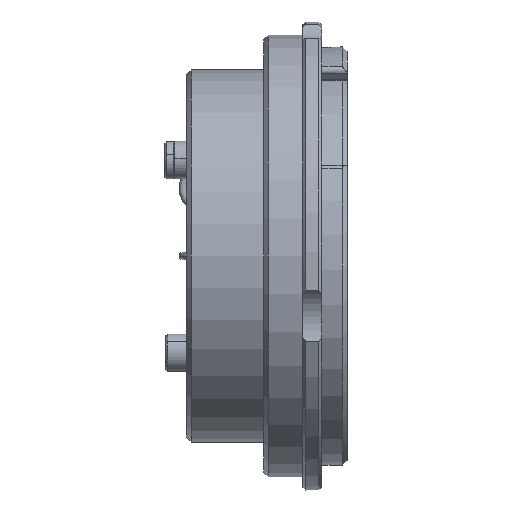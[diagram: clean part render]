
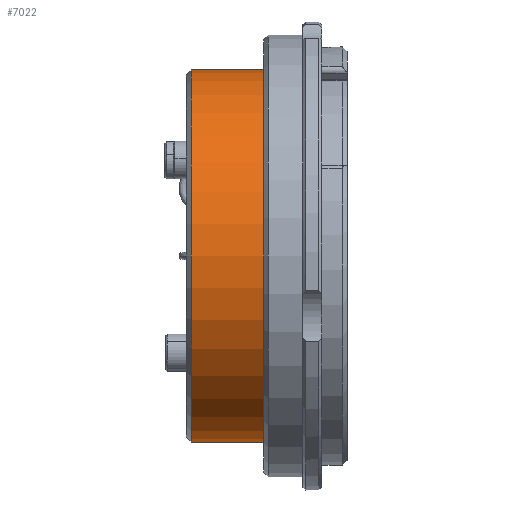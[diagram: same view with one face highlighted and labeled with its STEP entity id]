
A CAD part, left-side view. The second image highlights one B-rep face of the part: STEP entity #7022.
In plain terms, the highlighted cylindrical face has radius 19.8 mm (diameter 39.6 mm), a partial arc.
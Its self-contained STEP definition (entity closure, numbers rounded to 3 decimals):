
#450 = EDGE_CURVE ( 'NONE', #8816, #9384, #9280, .T. ) ;
#524 = VERTEX_POINT ( 'NONE', #2360 ) ;
#680 = CARTESIAN_POINT ( 'NONE',  ( 0., -8.2, -19.8 ) ) ;
#818 = LINE ( 'NONE', #680, #11802 ) ;
#1045 = EDGE_CURVE ( 'NONE', #524, #13012, #7963, .T. ) ;
#1578 = EDGE_CURVE ( 'NONE', #13012, #8816, #3965, .T. ) ;
#2360 = CARTESIAN_POINT ( 'NONE',  ( 0., -8.2, -19.8 ) ) ;
#2889 = DIRECTION ( 'NONE',  ( 0., 1., 0. ) ) ;
#2913 = DIRECTION ( 'NONE',  ( 0., -1., 0. ) ) ;
#3000 = CARTESIAN_POINT ( 'NONE',  ( 0., -8.2, 19.8 ) ) ;
#3514 = DIRECTION ( 'NONE',  ( 0., 0., 1. ) ) ;
#3892 = CARTESIAN_POINT ( 'NONE',  ( 0., -8.2, 19.8 ) ) ;
#3965 = LINE ( 'NONE', #3000, #5579 ) ;
#4086 = CARTESIAN_POINT ( 'NONE',  ( 0., -0.5, 0. ) ) ;
#4515 = ORIENTED_EDGE ( 'NONE', *, *, #1045, .T. ) ;
#4938 = CYLINDRICAL_SURFACE ( 'NONE', #11290, 19.8 ) ;
#5476 = EDGE_CURVE ( 'NONE', #524, #9384, #818, .T. ) ;
#5506 = ORIENTED_EDGE ( 'NONE', *, *, #5476, .F. ) ;
#5579 = VECTOR ( 'NONE', #8504, 1000. ) ;
#5711 = DIRECTION ( 'NONE',  ( 0., 1., 0. ) ) ;
#5759 = CARTESIAN_POINT ( 'NONE',  ( 0., -8.2, 0. ) ) ;
#5887 = CARTESIAN_POINT ( 'NONE',  ( 0., -0.5, -19.8 ) ) ;
#6776 = FACE_OUTER_BOUND ( 'NONE', #8019, .T. ) ;
#7022 = ADVANCED_FACE ( 'NONE', ( #6776 ), #4938, .T. ) ;
#7082 = AXIS2_PLACEMENT_3D ( 'NONE', #12936, #5711, #3514 ) ;
#7335 = CARTESIAN_POINT ( 'NONE',  ( 0., -0.5, 19.8 ) ) ;
#7963 = CIRCLE ( 'NONE', #7082, 19.8 ) ;
#8019 = EDGE_LOOP ( 'NONE', ( #5506, #4515, #12135, #12082 ) ) ;
#8274 = DIRECTION ( 'NONE',  ( 0., 0., 1. ) ) ;
#8504 = DIRECTION ( 'NONE',  ( 0., 1., 0. ) ) ;
#8816 = VERTEX_POINT ( 'NONE', #7335 ) ;
#9059 = DIRECTION ( 'NONE',  ( 0., 0., 1. ) ) ;
#9280 = CIRCLE ( 'NONE', #10830, 19.8 ) ;
#9384 = VERTEX_POINT ( 'NONE', #5887 ) ;
#10172 = DIRECTION ( 'NONE',  ( 0., 1., 0. ) ) ;
#10830 = AXIS2_PLACEMENT_3D ( 'NONE', #4086, #2913, #8274 ) ;
#11290 = AXIS2_PLACEMENT_3D ( 'NONE', #5759, #10172, #9059 ) ;
#11802 = VECTOR ( 'NONE', #2889, 1000. ) ;
#12082 = ORIENTED_EDGE ( 'NONE', *, *, #450, .T. ) ;
#12135 = ORIENTED_EDGE ( 'NONE', *, *, #1578, .T. ) ;
#12936 = CARTESIAN_POINT ( 'NONE',  ( 0., -8.2, 0. ) ) ;
#13012 = VERTEX_POINT ( 'NONE', #3892 ) ;
